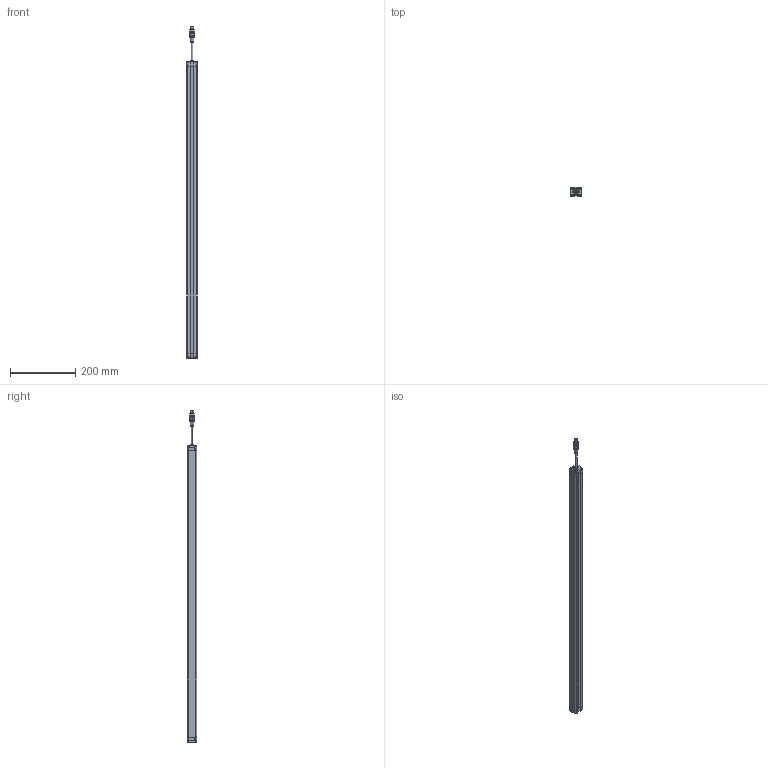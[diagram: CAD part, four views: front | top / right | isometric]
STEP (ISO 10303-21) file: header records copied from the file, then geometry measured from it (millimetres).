
FILE_DESCRIPTION((''),'2;1');
FILE_NAME('SMT1-CGQ_ASM','2025-08-08T08:33:05',('Administrator'),(''),'CREO PARAMETRIC BY PTC INC, 2016510','CREO PARAMETRIC BY PTC INC, 2016510','');
FILE_SCHEMA(('CONFIG_CONTROL_DESIGN'));
Length unit declared in the file: millimetre
Products named in the file (7): SMT1-XINGCAI-V1; SMT1-SDG-V1; SMT1-XDG-V1; M12-CHATOU; ST3X18; CT4-LVGUANGBAN; SMT1-CGQ_ASM
Assembly tree (13 placements, depth 2):
  SMT1-CGQ_ASM
    SMT1-XINGCAI-V1
    SMT1-SDG-V1
    SMT1-XDG-V1
    M12-CHATOU
    ST3X18  x8
    CT4-LVGUANGBAN
Bounding box: 33 x 28.02 x 1019.5 mm (x, y, z)
Volume: 706554.6 mm3; surface area: 228743.5 mm2
Topology: 13 solids, 13 shells, 712 faces, 1868 edges, 1200 vertices
Faces by surface type: plane 382, cylinder 184, extrusion 86, sphere 32, cone 20, bspline 8
Entity records: 18128 total; most frequent: CARTESIAN_POINT 4347, ORIENTED_EDGE 2916, DIRECTION 2580, EDGE_CURVE 1458, VECTOR 1036, VERTEX_POINT 955, LINE 950, AXIS2_PLACEMENT_3D 772
